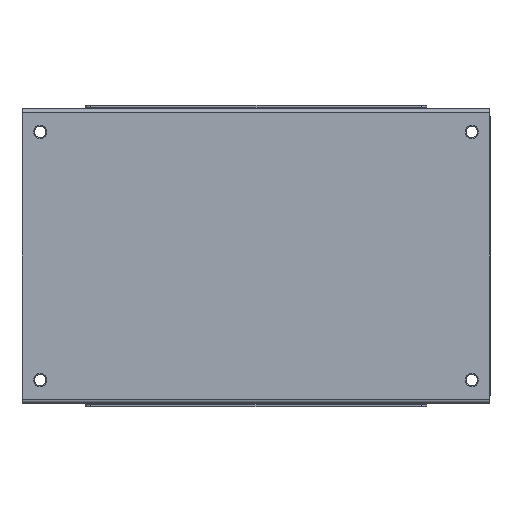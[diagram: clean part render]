
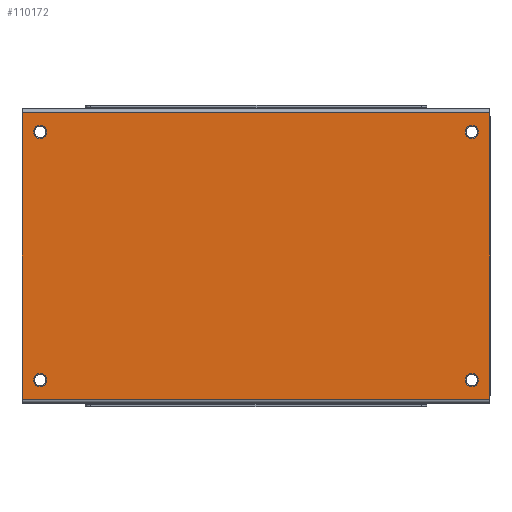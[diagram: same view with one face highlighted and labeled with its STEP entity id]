
A CAD part, front view. The second image highlights one B-rep face of the part: STEP entity #110172.
In plain terms, the highlighted planar face has unit normal (0, -1, 0).
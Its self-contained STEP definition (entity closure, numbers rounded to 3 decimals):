
#434 = DIRECTION ( 'NONE',  ( -1., 0., 0. ) ) ;
#2198 = VERTEX_POINT ( 'NONE', #91780 ) ;
#2239 = AXIS2_PLACEMENT_3D ( 'NONE', #41205, #105534, #50317 ) ;
#2549 = DIRECTION ( 'NONE',  ( 0., 1., 0. ) ) ;
#3391 = ORIENTED_EDGE ( 'NONE', *, *, #51138, .T. ) ;
#4159 = VECTOR ( 'NONE', #434, 1000. ) ;
#4519 = DIRECTION ( 'NONE',  ( 0., 1., 0. ) ) ;
#6316 = DIRECTION ( 'NONE',  ( 0., 0., 1. ) ) ;
#8080 = VERTEX_POINT ( 'NONE', #113070 ) ;
#8304 = AXIS2_PLACEMENT_3D ( 'NONE', #81894, #83973, #28729 ) ;
#8532 = CIRCLE ( 'NONE', #82151, 1.8 ) ;
#9457 = AXIS2_PLACEMENT_3D ( 'NONE', #21997, #43634, #52046 ) ;
#13071 = EDGE_LOOP ( 'NONE', ( #59573, #111256 ) ) ;
#15673 = EDGE_CURVE ( 'NONE', #131201, #100649, #135607, .T. ) ;
#16119 = FACE_BOUND ( 'NONE', #115884, .T. ) ;
#19069 = CARTESIAN_POINT ( 'NONE',  ( 26.114, 70.465, 75.148 ) ) ;
#19499 = ORIENTED_EDGE ( 'NONE', *, *, #131449, .T. ) ;
#19815 = DIRECTION ( 'NONE',  ( 0., 1., 0. ) ) ;
#20520 = CARTESIAN_POINT ( 'NONE',  ( 31.124, 70.465, 149.088 ) ) ;
#21997 = CARTESIAN_POINT ( 'NONE',  ( 150.504, 70.465, 149.088 ) ) ;
#22692 = CIRCLE ( 'NONE', #36145, 1.8 ) ;
#24154 = VECTOR ( 'NONE', #6316, 1000. ) ;
#24594 = PLANE ( 'NONE',  #2239 ) ;
#25805 = VERTEX_POINT ( 'NONE', #27863 ) ;
#26443 = EDGE_CURVE ( 'NONE', #45783, #120691, #22692, .T. ) ;
#27863 = CARTESIAN_POINT ( 'NONE',  ( 155.514, 70.465, 75.148 ) ) ;
#28423 = DIRECTION ( 'NONE',  ( -0.866, 0., 0.5 ) ) ;
#28729 = DIRECTION ( 'NONE',  ( -0.866, 0., 0.5 ) ) ;
#30635 = EDGE_LOOP ( 'NONE', ( #59255, #84667, #80669, #117317 ) ) ;
#33335 = EDGE_CURVE ( 'NONE', #25805, #8080, #133601, .T. ) ;
#33500 = CARTESIAN_POINT ( 'NONE',  ( 26.114, 70.465, 154.448 ) ) ;
#36145 = AXIS2_PLACEMENT_3D ( 'NONE', #53634, #106136, #117336 ) ;
#39136 = EDGE_CURVE ( 'NONE', #120691, #45783, #8532, .T. ) ;
#39769 = CARTESIAN_POINT ( 'NONE',  ( 152.063, 70.465, 148.188 ) ) ;
#41205 = CARTESIAN_POINT ( 'NONE',  ( 26.114, 70.465, 155.448 ) ) ;
#42986 = LINE ( 'NONE', #98209, #4159 ) ;
#43634 = DIRECTION ( 'NONE',  ( 0., 1., 0. ) ) ;
#45783 = VERTEX_POINT ( 'NONE', #102750 ) ;
#46692 = DIRECTION ( 'NONE',  ( 1., 0., 0. ) ) ;
#47018 = CARTESIAN_POINT ( 'NONE',  ( 150.504, 70.465, 80.508 ) ) ;
#48256 = VERTEX_POINT ( 'NONE', #103747 ) ;
#49016 = AXIS2_PLACEMENT_3D ( 'NONE', #47018, #4519, #89659 ) ;
#50317 = DIRECTION ( 'NONE',  ( -1., 0., 0. ) ) ;
#51138 = EDGE_CURVE ( 'NONE', #2198, #76223, #61798, .T. ) ;
#51369 = ORIENTED_EDGE ( 'NONE', *, *, #69407, .T. ) ;
#52046 = DIRECTION ( 'NONE',  ( -0.866, 0., 0.5 ) ) ;
#53634 = CARTESIAN_POINT ( 'NONE',  ( 31.124, 70.465, 80.508 ) ) ;
#53824 = EDGE_LOOP ( 'NONE', ( #131299, #3391 ) ) ;
#55644 = CIRCLE ( 'NONE', #102588, 1.8 ) ;
#56083 = CARTESIAN_POINT ( 'NONE',  ( 29.565, 70.465, 149.988 ) ) ;
#59255 = ORIENTED_EDGE ( 'NONE', *, *, #15673, .F. ) ;
#59573 = ORIENTED_EDGE ( 'NONE', *, *, #26443, .T. ) ;
#61798 = CIRCLE ( 'NONE', #135563, 1.8 ) ;
#62806 = CIRCLE ( 'NONE', #100752, 1.8 ) ;
#68483 = CIRCLE ( 'NONE', #8304, 1.8 ) ;
#69407 = EDGE_CURVE ( 'NONE', #85925, #91066, #62806, .T. ) ;
#71055 = CARTESIAN_POINT ( 'NONE',  ( 29.565, 70.465, 81.408 ) ) ;
#71976 = DIRECTION ( 'NONE',  ( 0., 0., 1. ) ) ;
#76223 = VERTEX_POINT ( 'NONE', #39769 ) ;
#76647 = DIRECTION ( 'NONE',  ( -0.866, 0., 0.5 ) ) ;
#77750 = FACE_OUTER_BOUND ( 'NONE', #30635, .T. ) ;
#79906 = DIRECTION ( 'NONE',  ( 0., 1., 0. ) ) ;
#80669 = ORIENTED_EDGE ( 'NONE', *, *, #33335, .T. ) ;
#81460 = EDGE_CURVE ( 'NONE', #76223, #2198, #136762, .T. ) ;
#81894 = CARTESIAN_POINT ( 'NONE',  ( 150.504, 70.465, 80.508 ) ) ;
#82151 = AXIS2_PLACEMENT_3D ( 'NONE', #87758, #2549, #76647 ) ;
#83973 = DIRECTION ( 'NONE',  ( 0., 1., 0. ) ) ;
#84667 = ORIENTED_EDGE ( 'NONE', *, *, #100642, .T. ) ;
#85925 = VERTEX_POINT ( 'NONE', #56083 ) ;
#86247 = VECTOR ( 'NONE', #71976, 1000. ) ;
#87758 = CARTESIAN_POINT ( 'NONE',  ( 31.124, 70.465, 80.508 ) ) ;
#89353 = CARTESIAN_POINT ( 'NONE',  ( 26.114, 70.465, 75.148 ) ) ;
#89659 = DIRECTION ( 'NONE',  ( -0.866, 0., 0.5 ) ) ;
#91066 = VERTEX_POINT ( 'NONE', #116591 ) ;
#91551 = CARTESIAN_POINT ( 'NONE',  ( 155.514, 70.465, 155.448 ) ) ;
#91780 = CARTESIAN_POINT ( 'NONE',  ( 148.945, 70.465, 149.988 ) ) ;
#94675 = CARTESIAN_POINT ( 'NONE',  ( 152.063, 70.465, 79.608 ) ) ;
#98209 = CARTESIAN_POINT ( 'NONE',  ( 26.114, 70.465, 154.448 ) ) ;
#99382 = VECTOR ( 'NONE', #46692, 1000. ) ;
#99822 = VERTEX_POINT ( 'NONE', #94675 ) ;
#100642 = EDGE_CURVE ( 'NONE', #131201, #25805, #132085, .T. ) ;
#100649 = VERTEX_POINT ( 'NONE', #33500 ) ;
#100752 = AXIS2_PLACEMENT_3D ( 'NONE', #20520, #19815, #103743 ) ;
#100793 = DIRECTION ( 'NONE',  ( -0.866, 0., 0.5 ) ) ;
#102038 = CARTESIAN_POINT ( 'NONE',  ( 26.114, 70.465, 155.448 ) ) ;
#102119 = FACE_BOUND ( 'NONE', #53824, .T. ) ;
#102542 = DIRECTION ( 'NONE',  ( 0., 1., 0. ) ) ;
#102588 = AXIS2_PLACEMENT_3D ( 'NONE', #112687, #79906, #100793 ) ;
#102750 = CARTESIAN_POINT ( 'NONE',  ( 32.683, 70.465, 79.608 ) ) ;
#103185 = EDGE_LOOP ( 'NONE', ( #117796, #51369 ) ) ;
#103743 = DIRECTION ( 'NONE',  ( -0.866, 0., 0.5 ) ) ;
#103747 = CARTESIAN_POINT ( 'NONE',  ( 148.945, 70.465, 81.408 ) ) ;
#104590 = CARTESIAN_POINT ( 'NONE',  ( 150.504, 70.465, 149.088 ) ) ;
#105534 = DIRECTION ( 'NONE',  ( 0., 1., 0. ) ) ;
#106136 = DIRECTION ( 'NONE',  ( 0., 1., 0. ) ) ;
#110172 = ADVANCED_FACE ( 'NONE', ( #16119, #102119, #110561, #134304, #77750 ), #24594, .F. ) ;
#110520 = ORIENTED_EDGE ( 'NONE', *, *, #133288, .T. ) ;
#110561 = FACE_BOUND ( 'NONE', #13071, .T. ) ;
#111256 = ORIENTED_EDGE ( 'NONE', *, *, #39136, .T. ) ;
#112687 = CARTESIAN_POINT ( 'NONE',  ( 31.124, 70.465, 149.088 ) ) ;
#113070 = CARTESIAN_POINT ( 'NONE',  ( 155.514, 70.465, 154.448 ) ) ;
#115884 = EDGE_LOOP ( 'NONE', ( #19499, #110520 ) ) ;
#116591 = CARTESIAN_POINT ( 'NONE',  ( 32.683, 70.465, 148.188 ) ) ;
#117317 = ORIENTED_EDGE ( 'NONE', *, *, #123675, .T. ) ;
#117336 = DIRECTION ( 'NONE',  ( -0.866, 0., 0.5 ) ) ;
#117796 = ORIENTED_EDGE ( 'NONE', *, *, #137989, .T. ) ;
#120691 = VERTEX_POINT ( 'NONE', #71055 ) ;
#123675 = EDGE_CURVE ( 'NONE', #8080, #100649, #42986, .T. ) ;
#124971 = CIRCLE ( 'NONE', #49016, 1.8 ) ;
#131201 = VERTEX_POINT ( 'NONE', #19069 ) ;
#131299 = ORIENTED_EDGE ( 'NONE', *, *, #81460, .T. ) ;
#131449 = EDGE_CURVE ( 'NONE', #99822, #48256, #68483, .T. ) ;
#132085 = LINE ( 'NONE', #89353, #99382 ) ;
#133288 = EDGE_CURVE ( 'NONE', #48256, #99822, #124971, .T. ) ;
#133601 = LINE ( 'NONE', #91551, #86247 ) ;
#134304 = FACE_BOUND ( 'NONE', #103185, .T. ) ;
#135563 = AXIS2_PLACEMENT_3D ( 'NONE', #104590, #102542, #28423 ) ;
#135607 = LINE ( 'NONE', #102038, #24154 ) ;
#136762 = CIRCLE ( 'NONE', #9457, 1.8 ) ;
#137989 = EDGE_CURVE ( 'NONE', #91066, #85925, #55644, .T. ) ;
